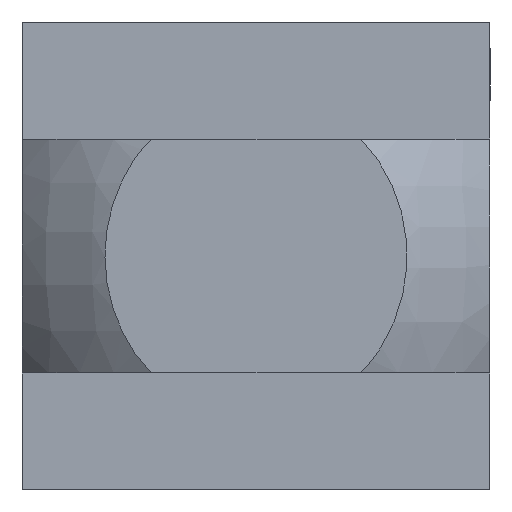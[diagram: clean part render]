
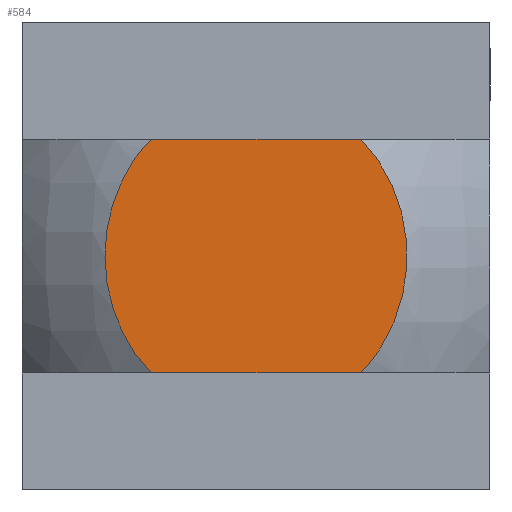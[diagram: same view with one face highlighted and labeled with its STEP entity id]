
A CAD part, left-side view. The second image highlights one B-rep face of the part: STEP entity #584.
In plain terms, the highlighted planar face has unit normal (-1, 0, 0).
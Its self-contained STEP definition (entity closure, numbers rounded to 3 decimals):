
#3 = VERTEX_POINT ( 'NONE', #69 ) ;
#69 = CARTESIAN_POINT ( 'NONE',  ( -15.5, -2.693, 3. ) ) ;
#190 = VERTEX_POINT ( 'NONE', #380 ) ;
#192 = EDGE_CURVE ( 'NONE', #3, #190, #379, .T. ) ;
#195 = ORIENTED_EDGE ( 'NONE', *, *, #192, .T. ) ;
#291 = DIRECTION ( 'NONE',  ( 0., 1., 0. ) ) ;
#326 = VECTOR ( 'NONE', #291, 1000. ) ;
#378 = CARTESIAN_POINT ( 'NONE',  ( -15.5, -6., 3. ) ) ;
#379 = LINE ( 'NONE', #378, #326 ) ;
#380 = CARTESIAN_POINT ( 'NONE',  ( -15.5, 2.693, 3. ) ) ;
#488 = VERTEX_POINT ( 'NONE', #708 ) ;
#584 = ADVANCED_FACE ( 'NONE', ( #875 ), #874, .T. ) ;
#585 = EDGE_LOOP ( 'NONE', ( #586, #195, #1061, #1056 ) ) ;
#586 = ORIENTED_EDGE ( 'NONE', *, *, #587, .F. ) ;
#587 = EDGE_CURVE ( 'NONE', #3, #488, #933, .T. ) ;
#708 = CARTESIAN_POINT ( 'NONE',  ( -15.5, -2.693, -3. ) ) ;
#871 = DIRECTION ( 'NONE',  ( -1., 0., 0. ) ) ;
#872 = CARTESIAN_POINT ( 'NONE',  ( -15.5, 6., -6. ) ) ;
#873 = AXIS2_PLACEMENT_3D ( 'NONE', #872, #871, #934 ) ;
#874 = PLANE ( 'NONE',  #873 ) ;
#875 = FACE_OUTER_BOUND ( 'NONE', #585, .T. ) ;
#910 = CARTESIAN_POINT ( 'NONE',  ( -15.5, -2.693, -3. ) ) ;
#911 = CARTESIAN_POINT ( 'NONE',  ( -15.5, -2.882, -2.802 ) ) ;
#912 = CARTESIAN_POINT ( 'NONE',  ( -15.5, -3.05, -2.586 ) ) ;
#913 = CARTESIAN_POINT ( 'NONE',  ( -15.5, -3.346, -2.118 ) ) ;
#914 = CARTESIAN_POINT ( 'NONE',  ( -15.5, -3.47, -1.871 ) ) ;
#915 = CARTESIAN_POINT ( 'NONE',  ( -15.5, -3.67, -1.361 ) ) ;
#916 = CARTESIAN_POINT ( 'NONE',  ( -15.5, -3.746, -1.096 ) ) ;
#917 = CARTESIAN_POINT ( 'NONE',  ( -15.5, -3.848, -0.551 ) ) ;
#918 = CARTESIAN_POINT ( 'NONE',  ( -15.5, -3.873, -0.277 ) ) ;
#919 = CARTESIAN_POINT ( 'NONE',  ( -15.5, -3.873, 0.271 ) ) ;
#920 = CARTESIAN_POINT ( 'NONE',  ( -15.5, -3.848, 0.548 ) ) ;
#921 = CARTESIAN_POINT ( 'NONE',  ( -15.5, -3.747, 1.091 ) ) ;
#922 = CARTESIAN_POINT ( 'NONE',  ( -15.5, -3.672, 1.355 ) ) ;
#923 = CARTESIAN_POINT ( 'NONE',  ( -15.5, -3.472, 1.867 ) ) ;
#924 = CARTESIAN_POINT ( 'NONE',  ( -15.5, -3.346, 2.117 ) ) ;
#925 = CARTESIAN_POINT ( 'NONE',  ( -15.5, -3.053, 2.582 ) ) ;
#926 = CARTESIAN_POINT ( 'NONE',  ( -15.5, -2.884, 2.799 ) ) ;
#932 = CARTESIAN_POINT ( 'NONE',  ( -15.5, -2.693, 3. ) ) ;
#933 = B_SPLINE_CURVE_WITH_KNOTS ( 'NONE', 3,
 ( #932, #926, #925, #924, #923, #922, #921, #920, #919, #918, #917, #916, #915, #914, #913, #912, #911, #910 ),
 .UNSPECIFIED., .F., .F.,
 ( 4, 2, 2, 2, 2, 2, 2, 2, 4 ),
 ( 0.009, 0.01, 0.011, 0.012, 0.013, 0.013, 0.014, 0.015, 0.016 ),
 .UNSPECIFIED. ) ;
#934 = DIRECTION ( 'NONE',  ( 0., 0., 1. ) ) ;
#935 = CARTESIAN_POINT ( 'NONE',  ( -15.5, 2.693, -3. ) ) ;
#937 = DIRECTION ( 'NONE',  ( 0., 1., 0. ) ) ;
#938 = VECTOR ( 'NONE', #937, 1000. ) ;
#940 = CARTESIAN_POINT ( 'NONE',  ( -15.5, -6., -3. ) ) ;
#941 = LINE ( 'NONE', #940, #938 ) ;
#978 = CARTESIAN_POINT ( 'NONE',  ( -15.5, 2.693, 3. ) ) ;
#979 = CARTESIAN_POINT ( 'NONE',  ( -15.5, 2.882, 2.802 ) ) ;
#980 = CARTESIAN_POINT ( 'NONE',  ( -15.5, 3.053, 2.581 ) ) ;
#981 = CARTESIAN_POINT ( 'NONE',  ( -15.5, 3.346, 2.117 ) ) ;
#982 = CARTESIAN_POINT ( 'NONE',  ( -15.5, 3.469, 1.873 ) ) ;
#983 = CARTESIAN_POINT ( 'NONE',  ( -15.5, 3.67, 1.36 ) ) ;
#984 = CARTESIAN_POINT ( 'NONE',  ( -15.5, 3.746, 1.093 ) ) ;
#985 = CARTESIAN_POINT ( 'NONE',  ( -15.5, 3.847, 0.554 ) ) ;
#986 = CARTESIAN_POINT ( 'NONE',  ( -15.5, 3.873, 0.281 ) ) ;
#987 = CARTESIAN_POINT ( 'NONE',  ( -15.5, 3.873, -0.273 ) ) ;
#988 = CARTESIAN_POINT ( 'NONE',  ( -15.5, 3.848, -0.548 ) ) ;
#989 = CARTESIAN_POINT ( 'NONE',  ( -15.5, 3.746, -1.092 ) ) ;
#990 = CARTESIAN_POINT ( 'NONE',  ( -15.5, 3.67, -1.359 ) ) ;
#991 = CARTESIAN_POINT ( 'NONE',  ( -15.5, 3.471, -1.87 ) ) ;
#992 = CARTESIAN_POINT ( 'NONE',  ( -15.5, 3.347, -2.116 ) ) ;
#993 = CARTESIAN_POINT ( 'NONE',  ( -15.5, 3.051, -2.585 ) ) ;
#994 = CARTESIAN_POINT ( 'NONE',  ( -15.5, 2.882, -2.801 ) ) ;
#995 = CARTESIAN_POINT ( 'NONE',  ( -15.5, 2.693, -3. ) ) ;
#1000 = B_SPLINE_CURVE_WITH_KNOTS ( 'NONE', 3,
 ( #995, #994, #993, #992, #991, #990, #989, #988, #987, #986, #985, #984, #983, #982, #981, #980, #979, #978 ),
 .UNSPECIFIED., .F., .F.,
 ( 4, 2, 2, 2, 2, 2, 2, 2, 4 ),
 ( 0.022, 0.023, 0.024, 0.024, 0.025, 0.026, 0.027, 0.028, 0.028 ),
 .UNSPECIFIED. ) ;
#1056 = ORIENTED_EDGE ( 'NONE', *, *, #1057, .F. ) ;
#1057 = EDGE_CURVE ( 'NONE', #488, #1059, #941, .T. ) ;
#1059 = VERTEX_POINT ( 'NONE', #935 ) ;
#1060 = EDGE_CURVE ( 'NONE', #1059, #190, #1000, .T. ) ;
#1061 = ORIENTED_EDGE ( 'NONE', *, *, #1060, .F. ) ;
